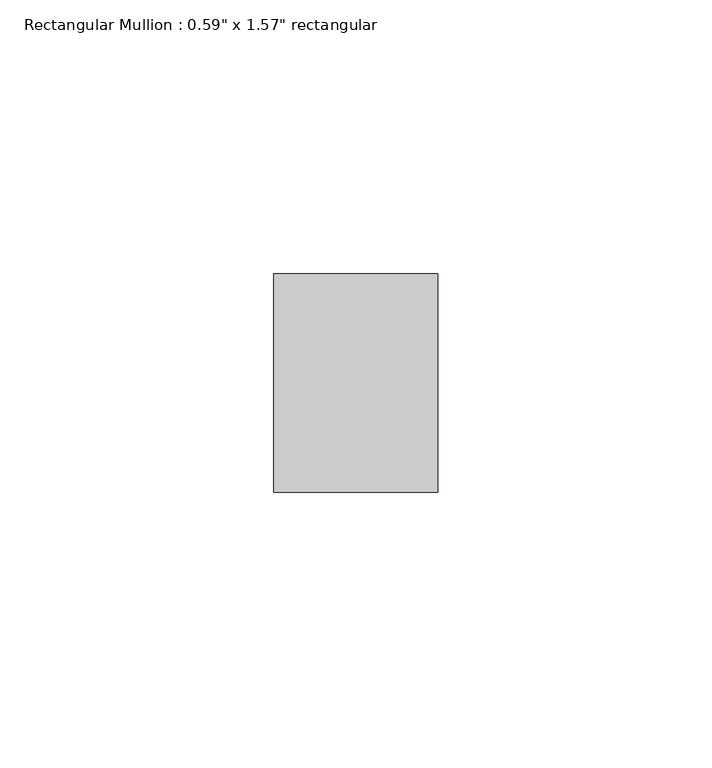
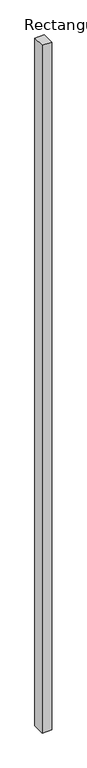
"""IFC4 building model written with IfcOpenShell, lengths in millimetres: member geometry."""

import ifcopenshell
import ifcopenshell.guid

model = None  # the IFC model being written
_history = None  # IfcOwnerHistory: only IFC2X3 demands one
_inside = {}  # id of a spatial element -> (the spatial element, [elements in it])
_under = {}  # id of a project, library or spatial element -> (it, [spatial elements below it])
_declared = {}  # id of a project -> (the project, [libraries it declares])
_typed = {}  # id of a type object -> (the type object, [elements of that type])
_made_of = {}  # id of a material, layer set ... -> (it, [elements and type objects made of it])


def new_model(schema):
    """Start an empty IFC model of exactly this schema.

    Asked for "IFC4X3", IfcOpenShell would pick the latest addendum, in which some entities
    have other attributes; the version numbers below select the first issue.
    IFC2X3 requires an IfcOwnerHistory on every rooted entity: one is made here for all.
    """
    global model, _history
    if schema == "IFC4X3":
        model = ifcopenshell.file(schema_version=(4, 3, 0, 0))
    else:
        model = ifcopenshell.file(schema=schema)
    _inside.clear()
    _under.clear()
    _declared.clear()
    _typed.clear()
    _made_of.clear()
    _history = None
    if model.schema == "IFC2X3":
        org = make("IfcOrganization", Name="unknown")
        user = make(
            "IfcPersonAndOrganization",
            ThePerson=make("IfcPerson", FamilyName="unknown"),
            TheOrganization=org,
        )
        app = make(
            "IfcApplication",
            ApplicationDeveloper=org,
            Version="unknown",
            ApplicationFullName="unknown",
            ApplicationIdentifier="unknown",
        )
        _history = make(
            "IfcOwnerHistory",
            OwningUser=user,
            OwningApplication=app,
            ChangeAction="ADDED",
            CreationDate=0,
        )
    return model


def make(cls, **values):
    """One entity of the class cls with the attributes given. An attribute that is None is left unset."""
    return model.create_entity(
        cls, **{name: value for name, value in values.items() if value is not None}
    )


def rooted(cls, **values):
    """An entity with a GlobalId (a new one), such as an element, a storey or a relation."""
    return make(cls, GlobalId=ifcopenshell.guid.new(), OwnerHistory=_history, **values)


def si_unit(unit_type, name, prefix=None):
    """IfcSIUnit, for example si_unit("LENGTHUNIT", "METRE", prefix="MILLI")."""
    return make("IfcSIUnit", UnitType=unit_type, Prefix=prefix, Name=name)


def assignment(units):
    """IfcUnitAssignment: the units of a project."""
    return None if units is None else make("IfcUnitAssignment", Units=units)


def point(xyz):
    """IfcCartesianPoint."""
    return None if xyz is None else make("IfcCartesianPoint", Coordinates=xyz)


def direction(xyz):
    """IfcDirection."""
    return None if xyz is None else make("IfcDirection", DirectionRatios=xyz)


def frame(location, z_axis=None, x_axis=None):
    """IfcAxis2Placement3D, a coordinate frame: its origin and axes. An axis left out is left unset."""
    return make(
        "IfcAxis2Placement3D",
        Location=point(location),
        Axis=direction(z_axis),
        RefDirection=direction(x_axis),
    )


def origin():
    """The frame at (0, 0, 0) with its axes left unset."""
    return frame((0.0, 0.0, 0.0))


def place(relative_to, where):
    """IfcLocalPlacement: puts the frame where relative to a parent placement (None: the world)."""
    return make(
        "IfcLocalPlacement", PlacementRelTo=relative_to, RelativePlacement=where
    )


def context(
    kind, dimensions, precision=None, world=None, true_north=None, identifier=None
):
    """IfcGeometricRepresentationContext, for example the 3D "Model" context."""
    return make(
        "IfcGeometricRepresentationContext",
        ContextIdentifier=identifier,
        ContextType=kind,
        CoordinateSpaceDimension=dimensions,
        Precision=precision,
        WorldCoordinateSystem=world,
        TrueNorth=true_north,
    )


def project(units=None, contexts=None):
    """IfcProject with its units and contexts."""
    return rooted(
        "IfcProject",
        Name="project",
        RepresentationContexts=contexts,
        UnitsInContext=assignment(units),
    )


def spatial(cls, under=None, at=None, **own):
    """A site, building, storey or space (cls), placed at a placement, below another one or the project."""
    s = rooted(cls, ObjectPlacement=at, **own)
    if under is not None:
        _under.setdefault(under.id(), (under, []))[1].append(s)
    return s


def polyline(points):
    """IfcPolyline through the points."""
    return make("IfcPolyline", Points=[point(p) for p in points])


def outline(outer, holes=None, kind="AREA"):
    """IfcArbitraryClosedProfileDef: a profile drawn as a closed curve; with holes, ...WithVoids."""
    if holes is None:
        return make("IfcArbitraryClosedProfileDef", ProfileType=kind, OuterCurve=outer)
    return make(
        "IfcArbitraryProfileDefWithVoids",
        ProfileType=kind,
        OuterCurve=outer,
        InnerCurves=holes,
    )


def extrude(swept, where, along, depth):
    """IfcExtrudedAreaSolid: the profile swept, set in the frame where, extruded along a direction by depth."""
    return make(
        "IfcExtrudedAreaSolid",
        SweptArea=swept,
        Position=where,
        ExtrudedDirection=direction(along),
        Depth=depth,
    )


def shape(context_of_items, identifier, shape_type, items):
    """IfcShapeRepresentation: the items that make up one representation, for example the "Body"."""
    return make(
        "IfcShapeRepresentation",
        ContextOfItems=context_of_items,
        RepresentationIdentifier=identifier,
        RepresentationType=shape_type,
        Items=items,
    )


def source(mapping_origin, context_of_items, identifier, shape_type, items):
    """IfcRepresentationMap: a shape defined once, which mapped items show again and again."""
    return make(
        "IfcRepresentationMap",
        MappingOrigin=mapping_origin,
        MappedRepresentation=shape(context_of_items, identifier, shape_type, items),
    )


def transform(
    local_origin,
    x_axis=None,
    y_axis=None,
    z_axis=None,
    scale=None,
    scale2=None,
    scale3=None,
    uniform=True,
):
    """IfcCartesianTransformationOperator3D, or its non-uniform kind. x_axis, y_axis, z_axis: its Axis1, 2, 3."""
    if uniform:
        return make(
            "IfcCartesianTransformationOperator3D",
            Axis1=direction(x_axis),
            Axis2=direction(y_axis),
            LocalOrigin=point(local_origin),
            Scale=scale,
            Axis3=direction(z_axis),
        )
    return make(
        "IfcCartesianTransformationOperator3DnonUniform",
        Axis1=direction(x_axis),
        Axis2=direction(y_axis),
        LocalOrigin=point(local_origin),
        Scale=scale,
        Axis3=direction(z_axis),
        Scale2=scale2,
        Scale3=scale3,
    )


def mapped(mapping_source, mapping_target):
    """IfcMappedItem: shows the shape of a source again, moved by a transform."""
    return make(
        "IfcMappedItem", MappingSource=mapping_source, MappingTarget=mapping_target
    )


def made_of(thing, what):
    """Note that an element or type object is made of a material, layer set ...; save() writes the relation."""
    if what is not None:
        _made_of.setdefault(what.id(), (what, []))[1].append(thing)
    return thing


def element(
    cls,
    number,
    at=None,
    inside=None,
    cuts=None,
    type_object=None,
    material=None,
    context=None,
    identifier="Body",
    shape_type=None,
    held_by="IfcProductDefinitionShape",
    body=None,
    shapes=None,
    **own,
):
    """One element of the class cls, such as IfcWall. Its Tag is "e" and its number.

    at: its placement. inside: the storey or other place that contains it. cuts: it is an
    opening in that element (IfcRelVoidsElement). A single representation is given by context,
    identifier, shape_type and body (its items); several are given by shapes. held_by: the class
    of the entity that holds the representations. save() writes the other relations.
    """
    e = rooted(cls, Tag="e%d" % number, ObjectPlacement=at, **own)
    if body is not None:
        shapes = [shape(context, identifier, shape_type, body)]
    if shapes is not None:
        e.Representation = make(held_by, Representations=shapes)
    if inside is not None:
        _inside.setdefault(inside.id(), (inside, []))[1].append(e)
    if cuts is not None:
        rooted(
            "IfcRelVoidsElement", RelatingBuildingElement=cuts, RelatedOpeningElement=e
        )
    if type_object is not None:
        _typed.setdefault(type_object.id(), (type_object, []))[1].append(e)
    return made_of(e, material)


def aggregate(whole, parts):
    """IfcRelAggregates: a whole, such as a stair, and the parts it consists of."""
    return rooted("IfcRelAggregates", RelatingObject=whole, RelatedObjects=parts)


def save(model, path):
    """Write the relations noted so far, then the file.

    IfcRelAggregates (storeys below a building ...), IfcRelContainedInSpatialStructure (elements
    in a storey), IfcRelDefinesByType, IfcRelAssociatesMaterial and IfcRelDeclares: one each for
    every whole, place, type object, material and project.
    """
    for whole, parts in _under.values():
        aggregate(whole, parts)
    for where, things in _inside.values():
        rooted(
            "IfcRelContainedInSpatialStructure",
            RelatedElements=things,
            RelatingStructure=where,
        )
    for kind, things in _typed.values():
        rooted("IfcRelDefinesByType", RelatedObjects=things, RelatingType=kind)
    for what, things in _made_of.values():
        rooted("IfcRelAssociatesMaterial", RelatedObjects=things, RelatingMaterial=what)
    for by, libraries in _declared.values():
        rooted("IfcRelDeclares", RelatingContext=by, RelatedDefinitions=libraries)
    model.write(path)


def member_c40ea337(model_context):
    return source(origin(), model_context, "Body", "SweptSolid", [
        extrude(outline(polyline([(14.986, 19.939), (14.986, -19.939), (-14.986, -19.939), (-14.986, 19.939), (14.986, 19.939)])), frame((0.0, 0.0, -2273.046), z_axis=(0.0, 0.0, 1.0), x_axis=(1.0, 0.0, 0.0)), (0.0, 0.0, 1.0), 2273.046),
    ])


if __name__ == "__main__":
    model = new_model("IFC4")
    model_context = context("Model", 3, world=origin())
    ifc_project = project(units=[si_unit("LENGTHUNIT", "METRE", prefix="MILLI")], contexts=[model_context])
    site = spatial("IfcSite", under=ifc_project)
    building = spatial("IfcBuilding", under=site)
    placement = place(None, origin())
    member_shape = member_c40ea337(model_context)
    element("IfcMember", 1, ObjectType="Rectangular Mullion : 0.59\" x 1.57\" rectangular", at=placement, inside=building, context=model_context, shape_type="MappedRepresentation", body=[
        mapped(member_shape, transform((0.0, 0.0, 0.0), x_axis=(1.0, 0.0, 0.0), y_axis=(0.0, 1.0, 0.0), z_axis=(0.0, 0.0, 1.0))),
    ])
    save(model, "model.ifc")
